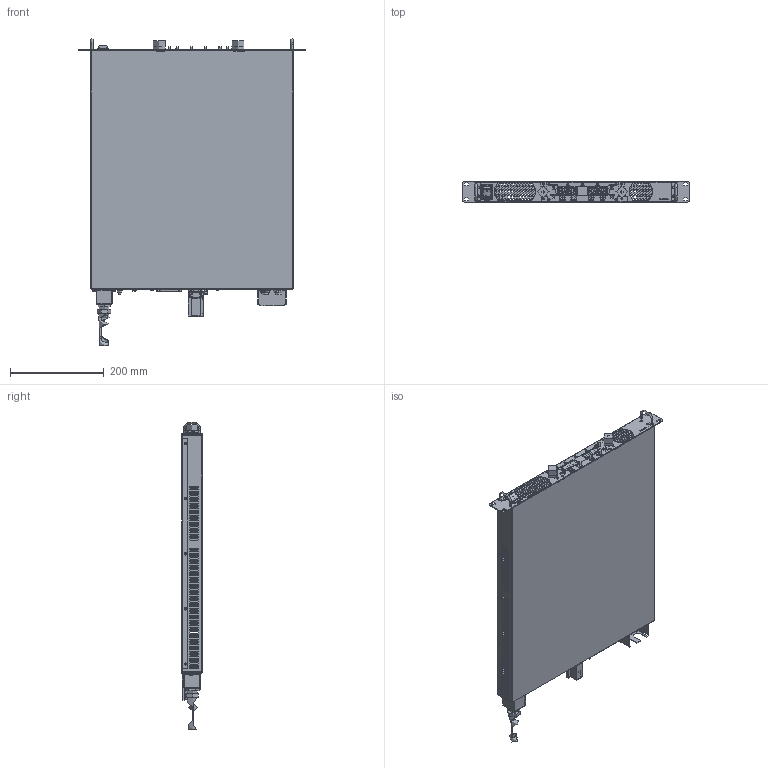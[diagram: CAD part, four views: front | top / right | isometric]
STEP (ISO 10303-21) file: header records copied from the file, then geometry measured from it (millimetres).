
FILE_DESCRIPTION (( 'STEP AP214' ), '1' );
FILE_NAME ('FL_051319.STEP', '2019-05-13T17:56:56', ( '' ), ( '' ), 'SwSTEP 2.0', 'SolidWorks 2018', '' );
FILE_SCHEMA (( 'AUTOMOTIVE_DESIGN' ));
Length unit declared in the file: inch
Products named in the file (215): HFN0440L_91831A005; DS008; 301170-007_#2; FHS-632-8; 7228-5; 301152-009_A; S-PB-PC-02CAP-A; 301170-005_#; HFS0440-06FF; JCONN54-2-RA; S-PB-PC-02; DS008_DS008-LED-GRN-1; FL_051319; HFL04S-M; HFF06; HFS0440-06_HFS0440-06; HFN1032S_91841A195; 401303-014_#; HFF04-SP; FHS-440-6; H-SPCR-LED-005; DS008_DS008-LED-YEL-1; HFL04S-M_HFL04S-M; HFS0440-06; PCA1618; BSOS-440-12; U036-DC-ME-01T; H-BUSH-SR001; FE-440-MD; DS009-LED-DIS-1; JCONN22-PCM25RF; HFS0632-06FF; S-RCKR-DS-06; H-HANDLE001; HFN1032S; 101433-001; TB014-01H; S-DIP-PC01-10; S-PB-PC-02-2; JCONN22-PCM09RF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
Assembly tree (163 placements, depth 4):
  DS008
  301170-007_#2
  FHS-632-8
  7228-5
  301152-009_A
Bounding box: 482.6 x 43.66 x 655.62 mm (x, y, z)
Volume: 949494.8 mm3; surface area: 1204973.1 mm2
Topology: 171 solids, 175 shells, 11012 faces, 28287 edges, 18247 vertices
Faces by surface type: plane 6314, cylinder 2042, bspline 1982, cone 574, sphere 51, torus 49
Full cylindrical faces by diameter (mm): 0.013 x4, 0.406 x4, 0.457 x1, 0.46 x4, 0.483 x1, 0.508 x17, 0.635 x32, 0.889 x29, 0.991 x2, 1 x34, 1.016 x42, 1.025 x2, 1.143 x9, 1.2 x8, 1.5 x2, 1.587 x2, 1.727 x2, 1.8 x4, 2 x2, 2.083 x9, 2.156 x16, 2.295 x4, 2.35 x4, 2.387 x16, 2.5 x1, 2.54 x2, 2.705 x4, 2.769 x2, 2.819 x6, 2.821 x4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
Entity records: 331584 total; most frequent: CARTESIAN_POINT 107728, ORIENTED_EDGE 35792, DIRECTION 30988, EDGE_CURVE 17896, VECTOR 12800, LINE 12800, VERTEX_POINT 12088, EDGE_LOOP 9620
